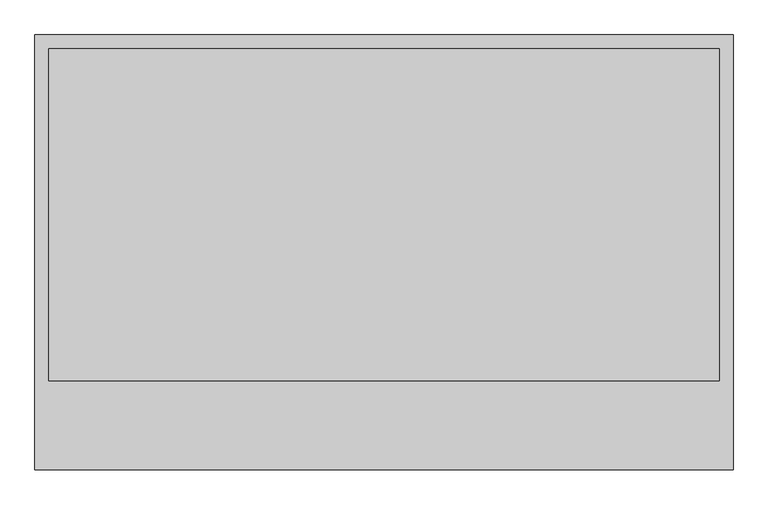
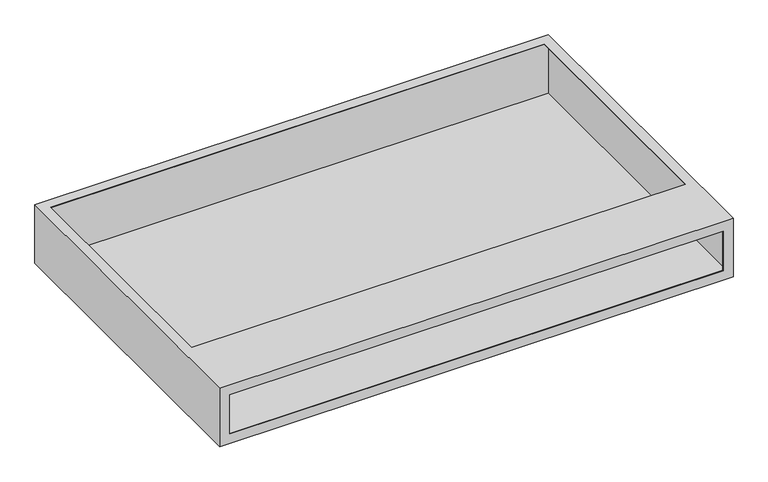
"""IFC4 building model written with IfcOpenShell, lengths in millimetres: valve geometry, USYSTEMS_Коллекторный шкаф_Накладной : 1300x160 мм."""

from ifc_helpers import new_model, si_unit, origin, place, context, project, spatial, faceted_brep, source, transform, mapped, element, save


def valve_75f531ea(model_context):
    return source(origin(), model_context, "Body", "Brep", [
        faceted_brep([(650.0, 405.0, 156.0), (-650.0, 405.0, 156.0), (-650.0, -405.0, 156.0), (650.0, -405.0, 156.0), (-624.5, 379.5, 156.0), (624.5, 379.5, 156.0), (624.5, -238.5, 156.0), (-624.5, -238.5, 156.0), (650.0, 405.0, 0.0), (650.0, -405.0, 0.0), (-650.0, -405.0, 0.0), (-650.0, 405.0, 0.0), (-624.5, -405.0, 130.5), (624.5, -405.0, 130.5), (624.5, -405.0, 25.5), (-624.5, -405.0, 25.5), (-624.5, 379.5, 155.0), (624.5, 379.5, 155.0), (-624.5, -238.5, 155.0), (624.5, -238.5, 155.0), (649.0, 404.0, 155.0), (649.0, -404.0, 155.0), (-649.0, -404.0, 155.0), (-649.0, 404.0, 155.0), (649.0, 404.0, 1.0), (-649.0, 404.0, 1.0), (-649.0, -404.0, 1.0), (649.0, -404.0, 1.0), (624.5, -404.0, 130.5), (-624.5, -404.0, 130.5), (-624.5, -404.0, 25.5), (624.5, -404.0, 25.5)], [[[0, 1, 2, 3], [4, 5, 6, 7]], [[8, 9, 10, 11]], [[1, 0, 8, 11]], [[2, 1, 11, 10]], [[3, 2, 10, 9], [12, 13, 14, 15]], [[0, 3, 9, 8]], [[4, 16, 17, 5]], [[16, 4, 7, 18]], [[18, 7, 6, 19]], [[5, 17, 19, 6]], [[20, 21, 22, 23], [17, 16, 18, 19]], [[24, 25, 26, 27]], [[20, 23, 25, 24]], [[23, 22, 26, 25]], [[22, 21, 27, 26], [28, 29, 30, 31]], [[21, 20, 24, 27]], [[28, 13, 12, 29]], [[29, 12, 15, 30]], [[30, 15, 14, 31]], [[13, 28, 31, 14]]]),
    ])


if __name__ == "__main__":
    model = new_model("IFC4")
    model_context = context("Model", 3, world=origin())
    ifc_project = project(units=[si_unit("LENGTHUNIT", "METRE", prefix="MILLI")], contexts=[model_context])
    site = spatial("IfcSite", under=ifc_project)
    building = spatial("IfcBuilding", under=site)
    placement = place(None, origin())
    valve_shape = valve_75f531ea(model_context)
    element("IfcValve", 1, ObjectType="USYSTEMS_Коллекторный шкаф_Накладной : 1300x160 мм", at=placement, inside=building, context=model_context, shape_type="MappedRepresentation", body=[
        mapped(valve_shape, transform((0.0, 0.0, 0.0), x_axis=(1.0, 0.0, 0.0), y_axis=(0.0, 1.0, 0.0), z_axis=(0.0, 0.0, 1.0))),
    ])
    save(model, "model.ifc")
